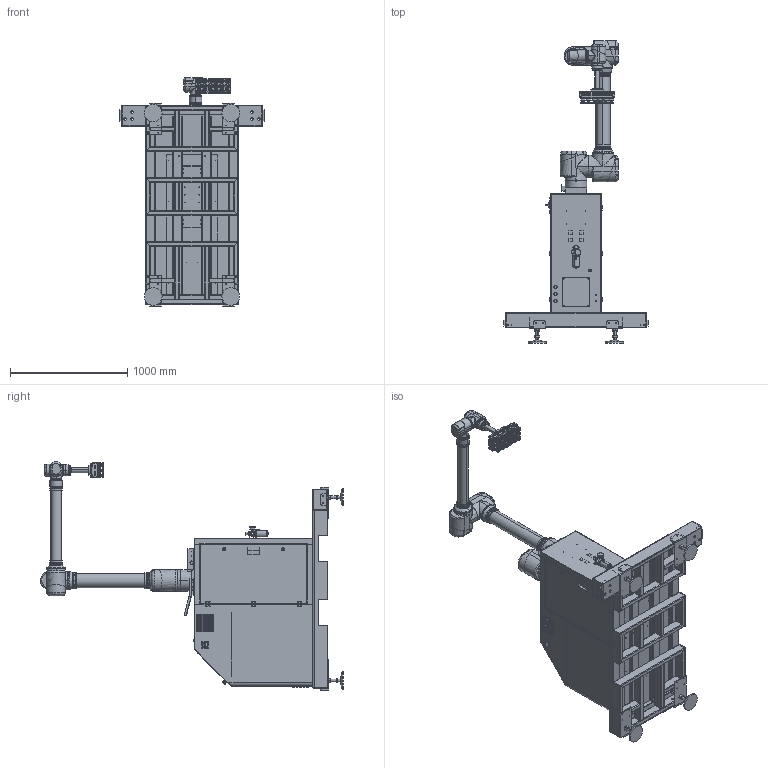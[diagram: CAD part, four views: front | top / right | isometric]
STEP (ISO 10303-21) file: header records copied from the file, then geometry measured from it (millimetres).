
FILE_DESCRIPTION (( 'STEP AP214' ), '1' );
FILE_NAME ('WP20L.STEP', '2025-03-17T06:38:32', ( '' ), ( '' ), 'SwSTEP 2.0', 'SolidWorks 2018', '' );
FILE_SCHEMA (( 'AUTOMOTIVE_DESIGN' ));
Length unit declared in the file: millimetre
Products named in the file (2): WP20L
Bounding box: 1230 x 2579.19 x 1948 mm (x, y, z)
Surface area: 17897429.7 mm2 (no closed solid volume)
Topology: 0 solids, 280 shells, 1895 faces, 8231 edges, 6421 vertices
Faces by surface type: bspline 748, plane 583, cylinder 439, cone 109, torus 16
Entity records: 156658 total; most frequent: CARTESIAN_POINT 78305, ORIENTED_EDGE 11273, DIRECTION 9438, EDGE_CURVE 8209, VERTEX_POINT 6421, AXIS2_PLACEMENT_3D 3226, VECTOR 2986, LINE 2986
